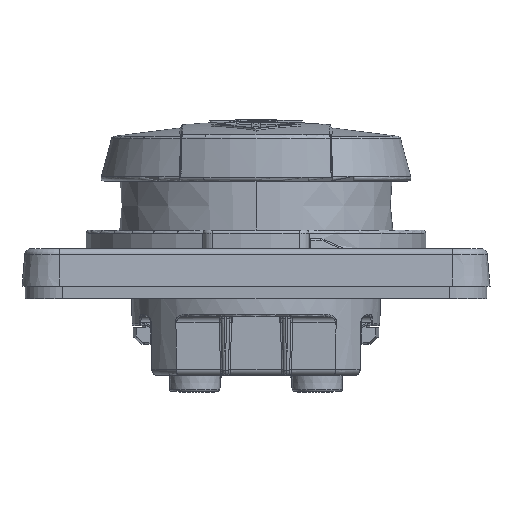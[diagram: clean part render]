
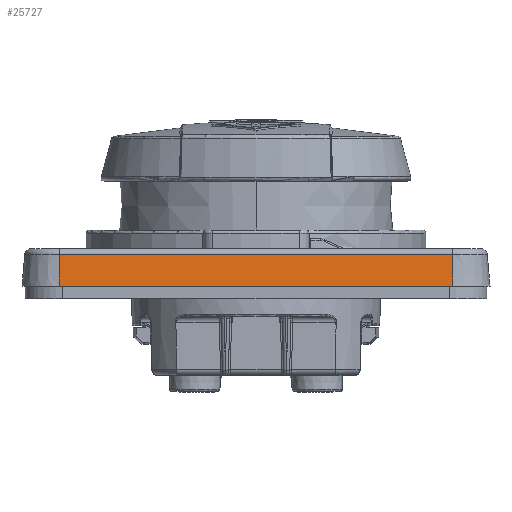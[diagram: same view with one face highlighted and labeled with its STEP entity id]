
A CAD part, front view. The second image highlights one B-rep face of the part: STEP entity #25727.
In plain terms, the highlighted planar face has unit normal (0, -0.996, 0.087).
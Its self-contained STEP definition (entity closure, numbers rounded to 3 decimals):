
#566=DIRECTION('',(1.,0.,0.));
#567=VECTOR('',#566,63.);
#568=CARTESIAN_POINT('',(-31.5,-37.5,-4.7));
#569=LINE('7014',#568,#567);
#677=DIRECTION('',(0.,0.087,0.996));
#678=VECTOR('',#677,5.107);
#679=CARTESIAN_POINT('',(31.5,-37.5,-4.7));
#680=LINE('7045',#679,#678);
#684=DIRECTION('',(0.,0.087,0.996));
#685=VECTOR('',#684,5.107);
#686=CARTESIAN_POINT('',(-31.5,-37.5,-4.7));
#687=LINE('7046',#686,#685);
#938=DIRECTION('',(1.,0.,0.));
#939=VECTOR('',#938,63.);
#940=CARTESIAN_POINT('',(-31.5,-37.055,0.387));
#941=LINE('7030',#940,#939);
#25163=CARTESIAN_POINT('',(-31.5,-37.5,-4.7));
#25165=VERTEX_POINT('',#25163);
#25176=CARTESIAN_POINT('',(31.5,-37.5,-4.7));
#25178=VERTEX_POINT('',#25176);
#25195=CARTESIAN_POINT('',(31.5,-37.055,0.387));
#25196=VERTEX_POINT('',#25195);
#25201=CARTESIAN_POINT('',(-31.5,-37.055,0.387));
#25202=VERTEX_POINT('',#25201);
#25714=CARTESIAN_POINT('',(-39.7,-37.5,-4.7));
#25715=DIRECTION('',(0.,-0.996,0.087));
#25716=DIRECTION('',(-1.,0.,0.));
#25717=AXIS2_PLACEMENT_3D('',#25714,#25715,#25716);
#25718=PLANE('4443',#25717);
#25719=ORIENTED_EDGE('7014',*,*,#25594,.F.);
#25721=ORIENTED_EDGE('7046',*,*,#25720,.T.);
#25723=ORIENTED_EDGE('7030',*,*,#25722,.T.);
#25724=ORIENTED_EDGE('7045',*,*,#25700,.F.);
#25725=EDGE_LOOP('4443',(#25719,#25721,#25723,#25724));
#25726=FACE_OUTER_BOUND('4443',#25725,.F.);
#25594=EDGE_CURVE('7014',#25165,#25178,#569,.T.);
#25700=EDGE_CURVE('7045',#25178,#25196,#680,.T.);
#25720=EDGE_CURVE('7046',#25165,#25202,#687,.T.);
#25722=EDGE_CURVE('7030',#25202,#25196,#941,.T.);
#25727=ADVANCED_FACE('4443',(#25726),#25718,.T.);
